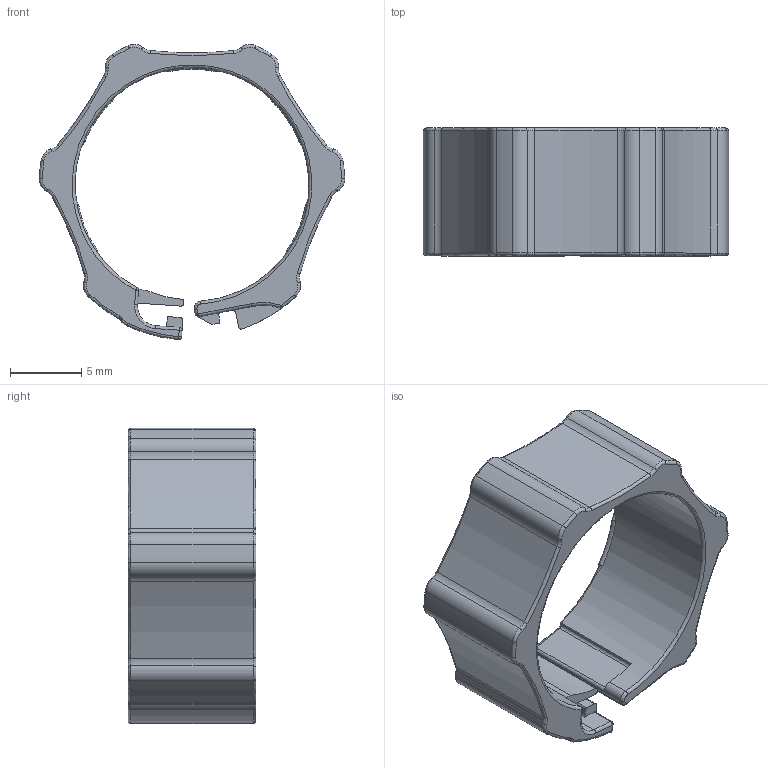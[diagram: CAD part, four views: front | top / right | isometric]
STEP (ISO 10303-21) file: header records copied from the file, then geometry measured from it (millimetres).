
FILE_DESCRIPTION (( 'STEP AP203' ), '1' );
FILE_NAME ('M12-Torque_Sleeve_Yellow.step', '2019-04-15T13:54:26', ( '' ), ( '' ), 'SwSTEP 2.0', 'SolidWorks 2017', '' );
FILE_SCHEMA (( 'CONFIG_CONTROL_DESIGN' ));
Length unit declared in the file: millimetre
Products named in the file (1): M12-Torque_Sleeve_Yellow
Bounding box: 21.48 x 9 x 20.77 mm (x, y, z)
Volume: 863 mm3; surface area: 1329.8 mm2
Topology: 1 solids, 1 shells, 220 faces, 544 edges, 319 vertices
Faces by surface type: bspline 116, cylinder 81, plane 23
Entity records: 8224 total; most frequent: CARTESIAN_POINT 3583, ORIENTED_EDGE 1074, DIRECTION 845, EDGE_CURVE 537, AXIS2_PLACEMENT_3D 353, VERTEX_POINT 319, CIRCLE 248, ADVANCED_FACE 220
